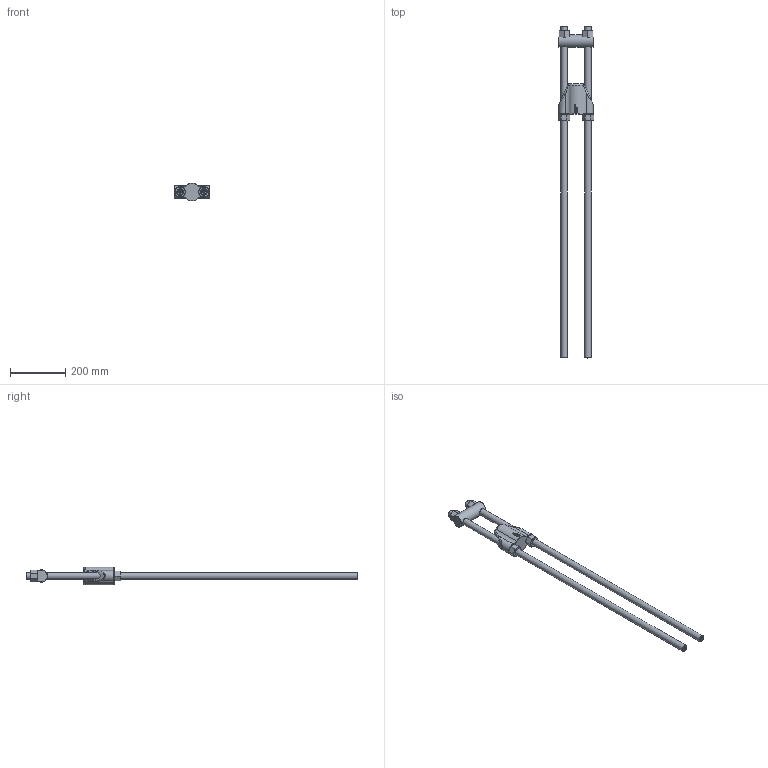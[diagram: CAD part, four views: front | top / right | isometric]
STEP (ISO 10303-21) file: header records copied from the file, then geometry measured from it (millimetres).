
FILE_DESCRIPTION(/* description */ (''),/* implementation_level */ '2;1');
FILE_NAME(/* name */ 'D:\Clienti\Redaelli (inventor)\BRC\STEP\Arrangemet\BRC020 72 111 0.stp',/* time_stamp */ '2021-05-08T08:19:07+02:00',/* author */ ('fabri'),/* organization */ (''),/* preprocessor_version */ 'ST-DEVELOPER v16.13',/* originating_system */ 'Autodesk Inventor 2018',/* authorisation */ '');
FILE_SCHEMA (('AUTOMOTIVE_DESIGN { 1 0 10303 214 3 1 1 }'));
Length unit declared in the file: millimetre
Products named in the file (5): BRC020 72 111 0; BRC020 71 112 0; BRC020 71 114 0_ROD; BRC020 71 113 0; BRC020 71 114 0_NUT
Assembly tree (8 placements, depth 2):
  BRC020 72 111 0
    BRC020 71 112 0
    BRC020 71 114 0_ROD  x2
    BRC020 71 113 0
    BRC020 71 114 0_NUT  x4
Bounding box: 127.57 x 1200 x 64.91 mm (x, y, z)
Volume: 1759666.4 mm3; surface area: 277898.4 mm2
Topology: 8 solids, 8 shells, 1514 faces, 4002 edges, 2638 vertices
Faces by surface type: plane 693, bspline 687, cone 62, cylinder 48, torus 20, sphere 4
Full cylindrical faces by diameter (mm): 20.752 x4, 24 x2, 25 x4, 45 x1
Entity records: 29972 total; most frequent: CARTESIAN_POINT 11873, ORIENTED_EDGE 4330, DIRECTION 2525, EDGE_CURVE 2165, VERTEX_POINT 1434, LINE 1165, VECTOR 1165, EDGE_LOOP 917
